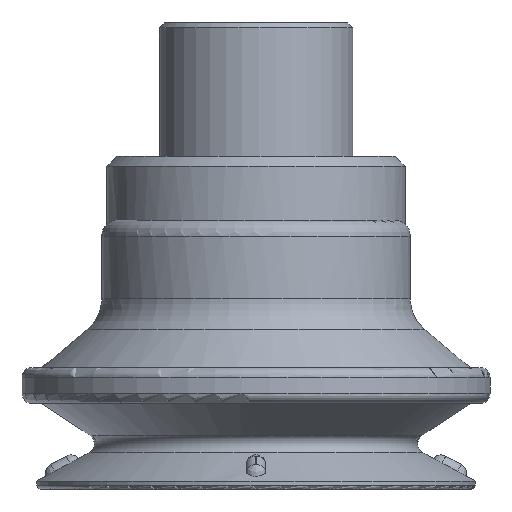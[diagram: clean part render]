
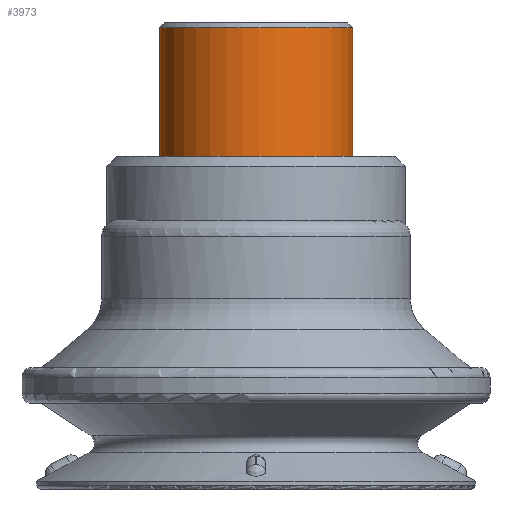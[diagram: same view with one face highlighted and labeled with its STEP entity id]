
A CAD part, left-side view. The second image highlights one B-rep face of the part: STEP entity #3973.
In plain terms, the highlighted cylindrical face has radius 4.865 mm (diameter 9.73 mm), a full revolution.
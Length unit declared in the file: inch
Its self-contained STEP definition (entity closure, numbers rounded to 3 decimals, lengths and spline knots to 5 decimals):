
#838 = CARTESIAN_POINT ( 'NONE',  ( -3.53858, 1.56652, 1.24916 ) ) ;
#1177 = AXIS2_PLACEMENT_3D ( 'NONE', #7782, #14624, #2187 ) ;
#2187 = DIRECTION ( 'NONE',  ( 0.031, -1., 0. ) ) ;
#2348 = VERTEX_POINT ( 'NONE', #838 ) ;
#3760 = DIRECTION ( 'NONE',  ( 0.031, -1., 0. ) ) ;
#3973 = ADVANCED_FACE ( 'NONE', ( #14239, #9735 ), #15098, .T. ) ;
#4081 = EDGE_CURVE ( 'NONE', #5147, #5147, #17291, .T. ) ;
#4150 = EDGE_LOOP ( 'NONE', ( #13188 ) ) ;
#4705 = DIRECTION ( 'NONE',  ( 0., 0., -1. ) ) ;
#4965 = CARTESIAN_POINT ( 'NONE',  ( -3.54443, 1.75796, 1.24916 ) ) ;
#5078 = DIRECTION ( 'NONE',  ( 0., 0., -1. ) ) ;
#5147 = VERTEX_POINT ( 'NONE', #14649 ) ;
#7084 = AXIS2_PLACEMENT_3D ( 'NONE', #4965, #5078, #3760 ) ;
#7782 = CARTESIAN_POINT ( 'NONE',  ( -3.54443, 1.75796, 0.99326 ) ) ;
#9735 = FACE_OUTER_BOUND ( 'NONE', #4150, .T. ) ;
#11472 = CARTESIAN_POINT ( 'NONE',  ( -3.54443, 1.75796, 1.259 ) ) ;
#11536 = EDGE_CURVE ( 'NONE', #2348, #2348, #11925, .T. ) ;
#11925 = CIRCLE ( 'NONE', #7084, 0.19154 ) ;
#12759 = DIRECTION ( 'NONE',  ( -0.031, 1., 0. ) ) ;
#13188 = ORIENTED_EDGE ( 'NONE', *, *, #11536, .T. ) ;
#14239 = FACE_OUTER_BOUND ( 'NONE', #17562, .T. ) ;
#14624 = DIRECTION ( 'NONE',  ( 0., 0., 1. ) ) ;
#14649 = CARTESIAN_POINT ( 'NONE',  ( -3.53858, 1.56652, 0.99326 ) ) ;
#15098 = CYLINDRICAL_SURFACE ( 'NONE', #15233, 0.19154 ) ;
#15233 = AXIS2_PLACEMENT_3D ( 'NONE', #11472, #4705, #12759 ) ;
#15904 = ORIENTED_EDGE ( 'NONE', *, *, #4081, .T. ) ;
#17291 = CIRCLE ( 'NONE', #1177, 0.19154 ) ;
#17562 = EDGE_LOOP ( 'NONE', ( #15904 ) ) ;
